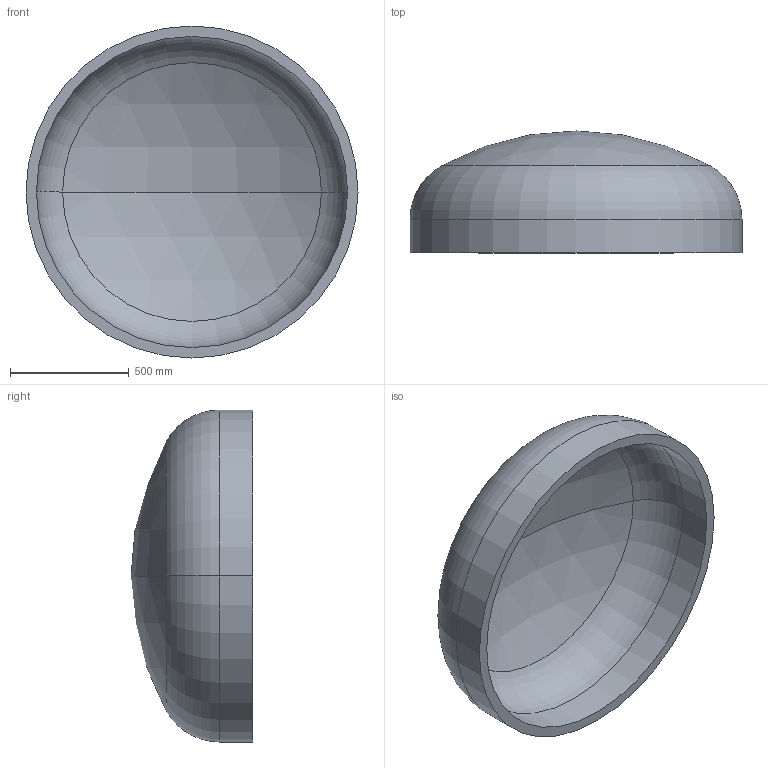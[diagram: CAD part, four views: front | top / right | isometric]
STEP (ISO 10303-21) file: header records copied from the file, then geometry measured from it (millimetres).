
FILE_DESCRIPTION (( 'STEP AP203' ), '1' );
FILE_NAME ('DIN 28013 Korbbogenform_-_Boden DIN 28013 - 1400 x 140 - I - s=44.step', '2016-07-01T10:18:40', ( '' ), ( '' ), 'SwSTEP 2.0', 'SolidWorks 2013', '' );
FILE_SCHEMA (( 'CONFIG_CONTROL_DESIGN' ));
Length unit declared in the file: millimetre
Products named in the file (1): DIN 28013 Korbbogenform_-_Boden DIN 28013 - 1400 x 140 - I - s=44
Bounding box: 1400 x 513.72 x 1400 mm (x, y, z)
Volume: 116230726 mm3; surface area: 5474708.1 mm2
Topology: 1 solids, 1 shells, 13 faces, 24 edges, 14 vertices
Faces by surface type: torus 4, cylinder 4, sphere 4, plane 1
Entity records: 407 total; most frequent: DIRECTION 72, CARTESIAN_POINT 52, ORIENTED_EDGE 48, AXIS2_PLACEMENT_3D 34, EDGE_CURVE 24, CIRCLE 20, VERTEX_POINT 14, EDGE_LOOP 14
